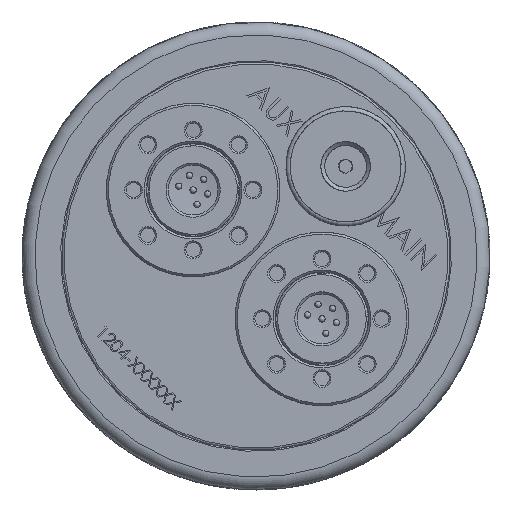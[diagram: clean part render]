
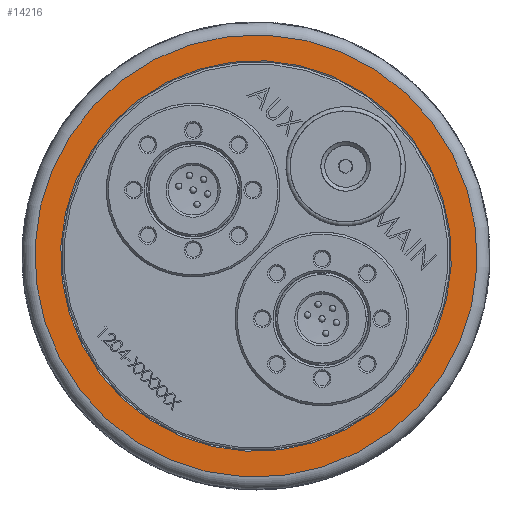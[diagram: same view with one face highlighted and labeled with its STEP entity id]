
A CAD part, front view. The second image highlights one B-rep face of the part: STEP entity #14216.
In plain terms, the highlighted planar face has unit normal (0, -1, 0).
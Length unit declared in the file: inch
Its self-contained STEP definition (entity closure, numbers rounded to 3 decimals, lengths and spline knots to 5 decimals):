
#526 = VERTEX_POINT ( 'NONE', #6136 ) ;
#2445 = VERTEX_POINT ( 'NONE', #22999 ) ;
#5387 = DIRECTION ( 'NONE',  ( 0.999, 0., -0.048 ) ) ;
#5429 = DIRECTION ( 'NONE',  ( 0.999, 0., -0.048 ) ) ;
#5446 = DIRECTION ( 'NONE',  ( 0., -1., 0. ) ) ;
#5480 = CARTESIAN_POINT ( 'NONE',  ( 0., -0.75984, 0. ) ) ;
#6034 = EDGE_CURVE ( 'NONE', #526, #526, #22025, .T. ) ;
#6136 = CARTESIAN_POINT ( 'NONE',  ( 2.03776, -0.75984, -0.0989 ) ) ;
#7419 = CARTESIAN_POINT ( 'NONE',  ( 0., -0.75984, 0. ) ) ;
#7488 = ORIENTED_EDGE ( 'NONE', *, *, #12428, .F. ) ;
#7767 = EDGE_LOOP ( 'NONE', ( #17070 ) ) ;
#8474 = FACE_BOUND ( 'NONE', #19282, .T. ) ;
#12428 = EDGE_CURVE ( 'NONE', #2445, #2445, #19387, .T. ) ;
#14216 = ADVANCED_FACE ( 'NONE', ( #8474, #24751 ), #14961, .F. ) ;
#14961 = PLANE ( 'NONE',  #18798 ) ;
#17070 = ORIENTED_EDGE ( 'NONE', *, *, #6034, .T. ) ;
#18581 = CARTESIAN_POINT ( 'NONE',  ( 0.08736, -0.75984, 1.80005 ) ) ;
#18798 = AXIS2_PLACEMENT_3D ( 'NONE', #18581, #20887, #23381 ) ;
#19210 = AXIS2_PLACEMENT_3D ( 'NONE', #5480, #5446, #5429 ) ;
#19282 = EDGE_LOOP ( 'NONE', ( #7488 ) ) ;
#19387 = CIRCLE ( 'NONE', #21325, 1.80217 ) ;
#19744 = DIRECTION ( 'NONE',  ( 0., -1., 0. ) ) ;
#20887 = DIRECTION ( 'NONE',  ( 0., 1., 0. ) ) ;
#21325 = AXIS2_PLACEMENT_3D ( 'NONE', #7419, #19744, #5387 ) ;
#22025 = CIRCLE ( 'NONE', #19210, 2.04016 ) ;
#22999 = CARTESIAN_POINT ( 'NONE',  ( 1.80005, -0.75984, -0.08736 ) ) ;
#23381 = DIRECTION ( 'NONE',  ( -0.999, 0., 0.048 ) ) ;
#24751 = FACE_OUTER_BOUND ( 'NONE', #7767, .T. ) ;
